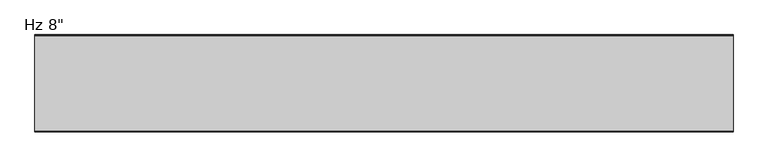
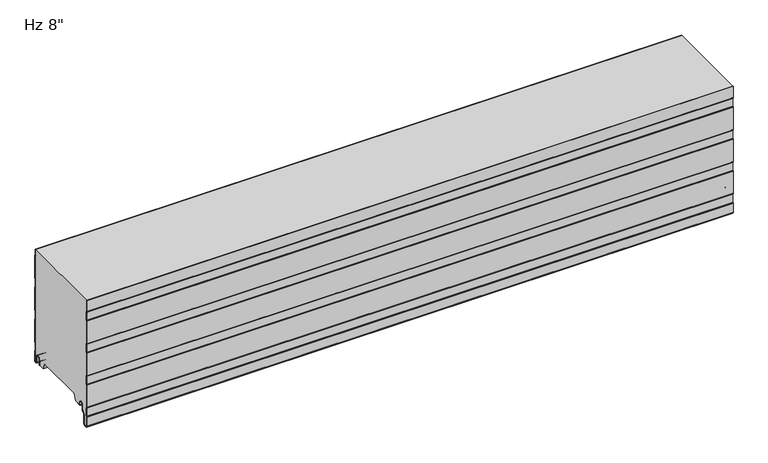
"""IFC4 building model written with IfcOpenShell, lengths in millimetres: plate geometry."""

from ifc_helpers import new_model, si_unit, point, frame, frame_2d, origin, place, context, project, spatial, polyline, circle_curve, trimmed, segment, composite_curve, outline, extrude, source, transform, mapped, element, save
from ifc_brep_helpers import plane_surface, cylinder_surface, revolved_surface, advanced_brep


def plate_716314bc(model_context):
    return source(origin(), model_context, "Body", "SolidModel", [
        extrude(outline(composite_curve([segment(trimmed(circle_curve(frame_2d((-2.3985037, -0.4487243)), 2.3999705), [point((-3.12e-05, -0.3639402))], [point((-2.3985037, -2.8486949))], False, "CARTESIAN"), True, "CONTINUOUS"), segment(polyline([(-2.3985037, -2.8486949), (-3.9516205, -2.8486949)]), True, "CONTINUOUS"), segment(trimmed(circle_curve(frame_2d((-3.9516205, 0.3613604)), 3.2100553), [point((-3.9516205, -2.8486949))], [point((-7.1616758, 0.3613604))], False, "CARTESIAN"), True, "CONTINUOUS"), segment(polyline([(-7.1616758, 0.3613604), (-7.1616758, 13.8905885)]), True, "CONTINUOUS"), segment(trimmed(circle_curve(frame_2d((-9.8816619, 13.8905885)), 2.7199861), [point((-7.1616758, 13.8905885))], [point((-9.8816619, 16.6105746))], True, "CARTESIAN"), True, "CONTINUOUS"), segment(polyline([(-9.8816619, 16.6105746), (-13.5282598, 16.6105746)]), True, "CONTINUOUS"), segment(trimmed(circle_curve(frame_2d((-13.5282598, 13.8905782)), 2.7199964), [point((-13.5282598, 16.6105746))], [point((-16.2482561, 13.8905782))], True, "CARTESIAN"), True, "CONTINUOUS"), segment(polyline([(-16.2482561, 13.8905782), (-16.2482561, 1.189897)]), True, "CONTINUOUS"), segment(trimmed(circle_curve(frame_2d((-17.7722572, 1.189897)), 1.524001), [point((-16.2482561, 1.189897))], [point((-19.2731052, 1.454537))], False, "CARTESIAN"), True, "CONTINUOUS"), segment(polyline([(-19.2731052, 1.454537), (-18.1704393, 7.7080661), (-17.2482561, 7.5454603), (-17.2482561, 13.8905782)]), True, "CONTINUOUS"), segment(trimmed(circle_curve(frame_2d((-13.5282598, 13.8905782)), 3.7199964), [point((-17.2482561, 13.8905782))], [point((-13.5282598, 17.6105746))], False, "CARTESIAN"), True, "CONTINUOUS"), segment(polyline([(-13.5282598, 17.6105746), (-9.8816619, 17.6105746)]), True, "CONTINUOUS"), segment(trimmed(circle_curve(frame_2d((-9.8816619, 13.8905885)), 3.7199861), [point((-9.8816619, 17.6105746))], [point((-6.1616758, 13.8905885))], False, "CARTESIAN"), True, "CONTINUOUS"), segment(polyline([(-6.1616758, 13.8905885), (-6.1616758, 0.3613604)]), True, "CONTINUOUS"), segment(trimmed(circle_curve(frame_2d((-3.9516205, 0.3613604)), 2.2100553), [point((-6.1616758, 0.3613604))], [point((-3.9516205, -1.8486949))], True, "CARTESIAN"), True, "CONTINUOUS"), segment(polyline([(-3.9516205, -1.8486949), (-2.3985037, -1.8486949)]), True, "CONTINUOUS"), segment(trimmed(circle_curve(frame_2d((-2.3985037, -0.4487243)), 1.3999705), [point((-2.3985037, -1.8486949))], [point((-1.0000312, -0.3839769))], True, "CARTESIAN"), True, "CONTINUOUS"), segment(polyline([(-1.0000312, -0.3839769), (-1.0000312, 22.2866086), (-2.2002516, 23.486829), (-2.2002516, 43.1222888), (-1.0000209, 44.3225195), (-1.0000209, 98.4864459), (-2.2002516, 99.6866766), (-2.2002516, 119.3221364), (-1.0000209, 120.5223671), (-1.0000209, 174.6698551), (-2.2002516, 175.8700858), (-2.2002516, 195.5055456), (-1.0000209, 196.7057763), (-1.0000209, 250.8532643), (-2.2002516, 252.0534951), (-2.2002516, 266.4), (-1.2002516, 266.4), (-1.2002516, 252.4677086), (-2.09e-05, 251.2674779), (-2.09e-05, 196.2915628), (-1.2002516, 195.091332), (-1.2002516, 176.2842994), (-2.09e-05, 175.0840687), (-2.09e-05, 120.1081535), (-1.2002516, 118.9079228), (-1.2002516, 100.1008902), (-2.09e-05, 98.9006594), (-2.09e-05, 43.9083059), (-1.2002516, 42.7080752), (-1.2002516, 23.9010426), (-3.12e-05, 22.7008222), (-3.12e-05, -0.3639402)]), True, "CONTINUOUS")], self_intersect=False)), frame((-730.0, 0.0, 0.0), z_axis=(1.0, 0.0, 0.0), x_axis=(0.0, 1.0, 0.0)), (0.0, 0.0, 1.0), 1460.0),
        extrude(outline(composite_curve([segment(trimmed(circle_curve(frame_2d((-174.905791, 0.8654988)), 1.2), [point((-173.705792, 0.8670134))], [point((-176.1042756, 0.8052116))], False, "CARTESIAN"), True, "CONTINUOUS"), segment(polyline([(-176.1042756, 0.8052116), (-176.1042756, 7.3245305)]), True, "CONTINUOUS"), segment(trimmed(circle_curve(frame_2d((-178.4542755, 7.3245305)), 2.3499999), [point((-176.1042756, 7.3245305))], [point((-178.4542755, 9.6745305))], True, "CARTESIAN"), True, "CONTINUOUS"), segment(polyline([(-178.4542755, 9.6745305), (-182.8542753, 9.6745305)]), True, "CONTINUOUS"), segment(trimmed(circle_curve(frame_2d((-182.8542753, 7.3245305)), 2.3499999), [point((-182.8542753, 9.6745305))], [point((-185.2042752, 7.3245305))], True, "CARTESIAN"), True, "CONTINUOUS"), segment(polyline([(-185.2042752, 7.3245305), (-185.2042752, -4.4863817)]), True, "CONTINUOUS"), segment(trimmed(circle_curve(frame_2d((-187.9042752, -4.4863817)), 2.7), [point((-185.2042752, -4.4863817))], [point((-185.9950869, -6.39557))], False, "CARTESIAN"), True, "CONTINUOUS"), segment(polyline([(-185.9950869, -6.39557), (-190.7356458, -11.1361289)]), True, "CONTINUOUS"), segment(trimmed(circle_curve(frame_2d((-189.604275, -12.2674998)), 1.6), [point((-190.7356458, -11.1361289))], [point((-191.204275, -12.2674998))], True, "CARTESIAN"), True, "CONTINUOUS"), segment(polyline([(-191.204275, -12.2674998), (-191.204275, -33.274257)]), True, "CONTINUOUS"), segment(trimmed(circle_curve(frame_2d((-194.904275, -33.274257)), 3.7), [point((-191.204275, -33.274257))], [point((-194.5815079, -36.960152))], False, "CARTESIAN"), True, "CONTINUOUS"), segment(polyline([(-194.5815079, -36.960152), (-199.3284964, -37.3758371)]), True, "CONTINUOUS"), segment(trimmed(circle_curve(frame_2d((-199.6391075, -33.8287598)), 3.5606512), [point((-199.3284964, -37.3758371))], [point((-203.1997587, -33.8287598))], False, "CARTESIAN"), True, "CONTINUOUS"), segment(polyline([(-203.1997587, -33.8287598), (-203.1997587, -12.0182355)]), True, "CONTINUOUS"), segment(trimmed(circle_curve(frame_2d((-201.7998926, -12.0182355)), 1.3998661), [point((-203.1997587, -12.0182355))], [point((-202.7325164, -10.9742825))], False, "CARTESIAN"), True, "CONTINUOUS"), segment(polyline([(-202.7325164, -10.9742825), (-201.9997902, -10.2415563), (-201.9997902, 8.6494291), (-202.7327558, 9.3823947)]), True, "CONTINUOUS"), segment(trimmed(circle_curve(frame_2d((-201.8000446, 10.4264455)), 1.3999972), [point((-202.7327558, 9.3823947))], [point((-203.2000209, 10.4340987))], False, "CARTESIAN"), True, "CONTINUOUS"), segment(polyline([(-203.2000209, 10.4340987), (-203.2000209, 64.1816121)]), True, "CONTINUOUS"), segment(trimmed(circle_curve(frame_2d((-201.8000237, 64.1816121)), 1.3999972), [point((-203.2000209, 64.1816121))], [point((-202.7327348, 65.2256628))], False, "CARTESIAN"), True, "CONTINUOUS"), segment(polyline([(-202.7327348, 65.2256628), (-201.9997902, 65.9586075), (-201.9997902, 84.8492767), (-202.7327558, 85.5822423)]), True, "CONTINUOUS"), segment(trimmed(circle_curve(frame_2d((-201.8000446, 86.6262931)), 1.3999972), [point((-202.7327558, 85.5822423))], [point((-203.2000209, 86.6339463))], False, "CARTESIAN"), True, "CONTINUOUS"), segment(polyline([(-203.2000209, 86.6339463), (-203.2000209, 140.3814597)]), True, "CONTINUOUS"), segment(trimmed(circle_curve(frame_2d((-201.8000237, 140.3814597)), 1.3999972), [point((-203.2000209, 140.3814597))], [point((-202.7327348, 141.4255104))], False, "CARTESIAN"), True, "CONTINUOUS"), segment(polyline([(-202.7327348, 141.4255104), (-201.9997902, 142.1584551), (-201.9997902, 161.0491243), (-202.7327558, 161.7820899)]), True, "CONTINUOUS"), segment(trimmed(circle_curve(frame_2d((-201.8000446, 162.8261407)), 1.3999972), [point((-202.7327558, 161.7820899))], [point((-203.2000209, 162.8337939))], False, "CARTESIAN"), True, "CONTINUOUS"), segment(polyline([(-203.2000209, 162.8337939), (-203.2000209, 216.5813073)]), True, "CONTINUOUS"), segment(trimmed(circle_curve(frame_2d((-201.8000237, 216.5813073)), 1.3999972), [point((-203.2000209, 216.5813073))], [point((-202.7327348, 217.625358))], False, "CARTESIAN"), True, "CONTINUOUS"), segment(polyline([(-202.7327348, 217.625358), (-201.9997902, 218.3583027), (-201.9997902, 237.2489719), (-202.7327558, 237.9819375)]), True, "CONTINUOUS"), segment(trimmed(circle_curve(frame_2d((-201.8000446, 239.0259883)), 1.3999972), [point((-202.7327558, 237.9819375))], [point((-203.2000209, 239.0336415))], False, "CARTESIAN"), True, "CONTINUOUS"), segment(polyline([(-203.2000209, 239.0336415), (-203.2000209, 266.4), (-202.2000209, 266.4), (-202.2000209, 238.8638905), (-200.9997902, 237.6636597), (-200.9997902, 217.9442472), (-202.2000209, 216.7440165), (-202.2000209, 162.6638848), (-200.9997902, 161.4636541), (-200.9997902, 141.7442416), (-202.2000209, 140.5440108), (-202.2000209, 86.4638791), (-200.9997902, 85.2636484), (-200.9997902, 65.5442359), (-202.2000209, 64.3440052), (-202.2000209, 10.2638734), (-200.9997902, 9.0636427), (-200.9997902, -10.6557698), (-202.1997587, -11.8557384), (-202.1997587, -33.8287598)]), True, "CONTINUOUS"), segment(trimmed(circle_curve(frame_2d((-199.6391075, -33.8287598)), 2.5606512), [point((-202.1997587, -33.8287598))], [point((-199.4157308, -36.3796493))], True, "CARTESIAN"), True, "CONTINUOUS"), segment(polyline([(-199.4157308, -36.3796493), (-194.6687422, -35.9639641)]), True, "CONTINUOUS"), segment(trimmed(circle_curve(frame_2d((-194.904275, -33.274257)), 2.7), [point((-194.6687422, -35.9639641))], [point((-192.204275, -33.274257))], True, "CARTESIAN"), True, "CONTINUOUS"), segment(polyline([(-192.204275, -33.274257), (-192.204275, -12.2674998)]), True, "CONTINUOUS"), segment(trimmed(circle_curve(frame_2d((-189.604275, -12.2674998)), 2.6), [point((-192.204275, -12.2674998))], [point((-191.4427526, -10.4290221))], False, "CARTESIAN"), True, "CONTINUOUS"), segment(polyline([(-191.4427526, -10.4290221), (-186.7021937, -5.6884632)]), True, "CONTINUOUS"), segment(trimmed(circle_curve(frame_2d((-187.9042752, -4.4863817)), 1.7), [point((-186.7021937, -5.6884632))], [point((-186.2042752, -4.4863817))], True, "CARTESIAN"), True, "CONTINUOUS"), segment(polyline([(-186.2042752, -4.4863817), (-186.2042752, 7.3245305)]), True, "CONTINUOUS"), segment(trimmed(circle_curve(frame_2d((-182.8542753, 7.3245305)), 3.3499999), [point((-186.2042752, 7.3245305))], [point((-182.8542753, 10.6745305))], False, "CARTESIAN"), True, "CONTINUOUS"), segment(polyline([(-182.8542753, 10.6745305), (-178.4542755, 10.6745305)]), True, "CONTINUOUS"), segment(trimmed(circle_curve(frame_2d((-178.4542755, 7.3245305)), 3.3499999), [point((-178.4542755, 10.6745305))], [point((-175.1042756, 7.3245305))], False, "CARTESIAN"), True, "CONTINUOUS"), segment(polyline([(-175.1042756, 7.3245305), (-175.1042756, 4.6254142), (-173.705792, 4.6254142), (-173.705792, 0.8670134)]), True, "CONTINUOUS")], self_intersect=False)), frame((-730.0, 0.0, 0.0), z_axis=(1.0, 0.0, 0.0), x_axis=(0.0, 1.0, 0.0)), (0.0, 0.0, 1.0), 1460.0),
        advanced_brep(
        [(-730.0, -175.1042756, 7.3245305), (-730.0, -178.4542755, 10.6745305), (-730.0, -182.8542753, 10.6745305), (-730.0, -186.2042752, 7.3245305), (-730.0, -186.2042752, -4.4863817), (-730.0, -186.7021937, -5.6884632), (-730.0, -191.4427526, -10.4290221), (-730.0, -192.204275, -12.2674998), (-730.0, -192.204275, -33.274257), (-730.0, -194.6687422, -35.9639641), (-730.0, -199.4157308, -36.3796493), (-730.0, -202.1997587, -33.8287598), (-730.0, -202.1997587, -11.8557384), (-730.0, -200.9997902, -10.6557698), (-730.0, -200.9997902, 9.0636427), (-730.0, -202.2000209, 10.2638734), (-730.0, -202.2000209, 64.3440052), (-730.0, -200.9997902, 65.5442359), (-730.0, -200.9997902, 85.2636484), (-730.0, -202.2000209, 86.4638791), (-730.0, -202.2000209, 140.5440108), (-730.0, -200.9997902, 141.7442416), (-730.0, -200.9997902, 161.4636541), (-730.0, -202.2000209, 162.6638848), (-730.0, -202.2000209, 216.7440165), (-730.0, -200.9997902, 217.9442472), (-730.0, -200.9997902, 237.6636597), (-730.0, -202.2000209, 238.8638905), (-730.0, -202.2000209, 266.4), (-730.0, -2.2002516, 266.4), (-730.0, -2.2002516, 252.0534951), (-730.0, -1.0000209, 250.8532643), (-730.0, -1.0000209, 196.7057763), (-730.0, -2.2002516, 195.5055456), (-730.0, -2.2002516, 175.8700858), (-730.0, -1.0000209, 174.6698551), (-730.0, -1.0000209, 120.5223671), (-730.0, -2.2002516, 119.3221364), (-730.0, -2.2002516, 99.6866766), (-730.0, -1.0000209, 98.4864459), (-730.0, -1.0000209, 44.3225195), (-730.0, -2.2002516, 43.1222888), (-730.0, -2.2002516, 23.486829), (-730.0, -1.0000312, 22.2866086), (-730.0, -1.0000312, -0.3839769), (-730.0, -2.3985037, -1.8486949), (-730.0, -3.9516205, -1.8486949), (-730.0, -6.1616758, 0.3613604), (-730.0, -6.1616758, 13.8905885), (-730.0, -9.8816619, 17.6105746), (-730.0, -13.5282598, 17.6105746), (-730.0, -17.2482561, 13.8905782), (-730.0, -17.2482561, 7.5454603), (-730.0, -18.1704393, 7.7080661), (-730.0, -19.2731052, 1.454537), (-730.0, -18.724478, 0.0), (-730.0, -33.5050787, 0.0), (-730.0, -39.1301227, 14.9979533), (-730.0, -153.3686274, 14.9979533), (-730.0, -158.9925929, 0.0), (-730.0, -174.07458, 0.0), (-730.0, -173.705792, 0.8670134), (-730.0, -173.705792, 4.6254142), (-730.0, -175.1042756, 4.6254142), (730.0, -175.1042756, 7.3245305), (730.0, -175.1042756, 4.6254142), (730.0, -173.705792, 4.6254142), (730.0, -173.705792, 0.8670134), (730.0, -174.07458, 0.0), (730.0, -158.9925929, 0.0), (730.0, -153.3683653, 14.9979533), (730.0, -39.1301227, 14.9979533), (730.0, -33.5050787, 0.0), (730.0, -18.724478, 0.0), (730.0, -19.2731052, 1.454537), (730.0, -18.1704393, 7.7080661), (730.0, -17.2482561, 7.5454603), (730.0, -17.2482561, 13.8905782), (730.0, -13.5282598, 17.6105746), (730.0, -9.8816619, 17.6105746), (730.0, -6.1616758, 13.8905885), (730.0, -6.1616758, 0.3613604), (730.0, -3.9516205, -1.8486949), (730.0, -2.3985037, -1.8486949), (730.0, -1.0000312, -0.3839769), (730.0, -1.0000312, 22.2866086), (730.0, -2.2002516, 23.486829), (730.0, -2.2002516, 43.1222888), (730.0, -1.0000209, 44.3225195), (730.0, -1.0000209, 98.4864459), (730.0, -2.2002516, 99.6866766), (730.0, -2.2002516, 119.3221364), (730.0, -1.0000209, 120.5223671), (730.0, -1.0000209, 174.6698551), (730.0, -2.2002516, 175.8700858), (730.0, -2.2002516, 195.5055456), (730.0, -1.0000209, 196.7057763), (730.0, -1.0000209, 250.8532643), (730.0, -2.2002516, 252.0534951), (730.0, -2.2002516, 266.4), (730.0, -202.2000209, 266.4), (730.0, -202.2000209, 238.8638905), (730.0, -200.9997902, 237.6636597), (730.0, -200.9997902, 217.9442472), (730.0, -202.2000209, 216.7440165), (730.0, -202.2000209, 162.6638848), (730.0, -200.9997902, 161.4636541), (730.0, -200.9997902, 141.7442416), (730.0, -202.2000209, 140.5440108), (730.0, -202.2000209, 86.4638791), (730.0, -200.9997902, 85.2636484), (730.0, -200.9997902, 65.5442359), (730.0, -202.2000209, 64.3440052), (730.0, -202.2000209, 10.2638734), (730.0, -200.9997902, 9.0636427), (730.0, -200.9997902, -10.6557698), (730.0, -202.1997587, -11.8557384), (730.0, -202.1997587, -33.8287598), (730.0, -199.4157308, -36.3796493), (730.0, -194.6687422, -35.9639641), (730.0, -192.204275, -33.274257), (730.0, -192.204275, -12.2674998), (730.0, -191.4427526, -10.4290221), (730.0, -186.7021937, -5.6884632), (730.0, -186.2042752, -4.4863817), (730.0, -186.2042752, 7.3245305), (730.0, -182.8542753, 10.6745305), (730.0, -178.4542755, 10.6745305)],
        [
            (0, 1, circle_curve(frame((-730.0, -178.4542755, 7.3245305), z_axis=(1.0, 0.0, 0.0), x_axis=(0.0, 0.0, -1.0)), 3.3499999)),
            (1, 2),
            (2, 3, circle_curve(frame((-730.0, -182.8542753, 7.3245305), z_axis=(1.0, 0.0, 0.0), x_axis=(0.0, 0.0, -1.0)), 3.3499999)),
            (3, 4),
            (4, 5, circle_curve(frame((-730.0, -187.9042752, -4.4863817), z_axis=(-1.0, 0.0, 0.0), x_axis=(0.0, 0.0, -1.0)), 1.7)),
            (5, 6),
            (6, 7, circle_curve(frame((-730.0, -189.604275, -12.2674998), z_axis=(1.0, 0.0, 0.0), x_axis=(0.0, 0.0, -1.0)), 2.6)),
            (7, 8),
            (8, 9, circle_curve(frame((-730.0, -194.904275, -33.274257), z_axis=(-1.0, 0.0, 0.0), x_axis=(0.0, 0.0, -1.0)), 2.7)),
            (9, 10),
            (10, 11, circle_curve(frame((-730.0, -199.6391075, -33.8287598), z_axis=(-1.0, 0.0, 0.0), x_axis=(0.0, 0.0, -1.0)), 2.5606512)),
            (11, 12),
            (12, 13),
            (13, 14),
            (14, 15),
            (15, 16),
            (16, 17),
            (17, 18),
            (18, 19),
            (19, 20),
            (20, 21),
            (21, 22),
            (22, 23),
            (23, 24),
            (24, 25),
            (25, 26),
            (26, 27),
            (27, 28),
            (28, 29),
            (29, 30),
            (30, 31),
            (31, 32),
            (32, 33),
            (33, 34),
            (34, 35),
            (35, 36),
            (36, 37),
            (37, 38),
            (38, 39),
            (39, 40),
            (40, 41),
            (41, 42),
            (42, 43),
            (43, 44),
            (44, 45, circle_curve(frame((-730.0, -2.3985037, -0.4487243), z_axis=(-1.0, 0.0, 0.0), x_axis=(0.0, 0.0, -1.0)), 1.3999705)),
            (45, 46),
            (46, 47, circle_curve(frame((-730.0, -3.9516205, 0.3613604), z_axis=(-1.0, 0.0, 0.0), x_axis=(0.0, 0.0, -1.0)), 2.2100553)),
            (47, 48),
            (48, 49, circle_curve(frame((-730.0, -9.8816619, 13.8905885), z_axis=(1.0, 0.0, 0.0), x_axis=(0.0, 0.0, -1.0)), 3.7199861)),
            (49, 50),
            (50, 51, circle_curve(frame((-730.0, -13.5282598, 13.8905782), z_axis=(1.0, 0.0, 0.0), x_axis=(0.0, 0.0, -1.0)), 3.7199964)),
            (51, 52),
            (52, 53),
            (53, 54),
            (54, 55, circle_curve(frame((-730.0, -17.7722572, 1.189897), z_axis=(1.0, 0.0, 0.0), x_axis=(0.0, 0.0, -1.0)), 1.524001)),
            (55, 56),
            (56, 57),
            (57, 58),
            (58, 59),
            (59, 60),
            (60, 61, circle_curve(frame((-730.0, -174.905791, 0.8654988), z_axis=(1.0, 0.0, 0.0), x_axis=(0.0, 0.0, -1.0)), 1.2)),
            (61, 62),
            (62, 63),
            (63, 0),
            (64, 65),
            (65, 66),
            (66, 67),
            (67, 68, circle_curve(frame((730.0, -174.905791, 0.8654988), z_axis=(-1.0, 0.0, 0.0), x_axis=(0.0, 0.0, -1.0)), 1.2)),
            (68, 69),
            (69, 70),
            (70, 71),
            (71, 72),
            (72, 73),
            (73, 74, circle_curve(frame((730.0, -17.7722572, 1.189897), z_axis=(-1.0, 0.0, 0.0), x_axis=(0.0, 0.0, -1.0)), 1.524001)),
            (74, 75),
            (75, 76),
            (76, 77),
            (77, 78, circle_curve(frame((730.0, -13.5282598, 13.8905782), z_axis=(-1.0, 0.0, 0.0), x_axis=(0.0, 0.0, -1.0)), 3.7199964)),
            (78, 79),
            (79, 80, circle_curve(frame((730.0, -9.8816619, 13.8905885), z_axis=(-1.0, 0.0, 0.0), x_axis=(0.0, 0.0, -1.0)), 3.7199861)),
            (80, 81),
            (81, 82, circle_curve(frame((730.0, -3.9516205, 0.3613604), z_axis=(1.0, 0.0, 0.0), x_axis=(0.0, 0.0, -1.0)), 2.2100553)),
            (82, 83),
            (83, 84, circle_curve(frame((730.0, -2.3985037, -0.4487243), z_axis=(1.0, 0.0, 0.0), x_axis=(0.0, 0.0, -1.0)), 1.3999705)),
            (84, 85),
            (85, 86),
            (86, 87),
            (87, 88),
            (88, 89),
            (89, 90),
            (90, 91),
            (91, 92),
            (92, 93),
            (93, 94),
            (94, 95),
            (95, 96),
            (96, 97),
            (97, 98),
            (98, 99),
            (99, 100),
            (100, 101),
            (101, 102),
            (102, 103),
            (103, 104),
            (104, 105),
            (105, 106),
            (106, 107),
            (107, 108),
            (108, 109),
            (109, 110),
            (110, 111),
            (111, 112),
            (112, 113),
            (113, 114),
            (114, 115),
            (115, 116),
            (116, 117),
            (117, 118, circle_curve(frame((730.0, -199.6391075, -33.8287598), z_axis=(1.0, 0.0, 0.0), x_axis=(0.0, 0.0, -1.0)), 2.5606512)),
            (118, 119),
            (119, 120, circle_curve(frame((730.0, -194.904275, -33.274257), z_axis=(1.0, 0.0, 0.0), x_axis=(0.0, 0.0, -1.0)), 2.7)),
            (120, 121),
            (121, 122, circle_curve(frame((730.0, -189.604275, -12.2674998), z_axis=(-1.0, 0.0, 0.0), x_axis=(0.0, 0.0, -1.0)), 2.6)),
            (122, 123),
            (123, 124, circle_curve(frame((730.0, -187.9042752, -4.4863817), z_axis=(1.0, 0.0, 0.0), x_axis=(0.0, 0.0, -1.0)), 1.7)),
            (124, 125),
            (125, 126, circle_curve(frame((730.0, -182.8542753, 7.3245305), z_axis=(-1.0, 0.0, 0.0), x_axis=(0.0, 0.0, -1.0)), 3.3499999)),
            (126, 127),
            (127, 64, circle_curve(frame((730.0, -178.4542755, 7.3245305), z_axis=(-1.0, 0.0, 0.0), x_axis=(0.0, 0.0, -1.0)), 3.3499999)),
            (48, 80),
            (79, 49),
            (47, 81),
            (46, 82),
            (45, 83),
            (44, 84),
            (43, 85),
            (42, 86),
            (41, 87),
            (40, 88),
            (39, 89),
            (38, 90),
            (37, 91),
            (36, 92),
            (35, 93),
            (34, 94),
            (33, 95),
            (32, 96),
            (31, 97),
            (30, 98),
            (29, 99),
            (56, 72),
            (71, 57),
            (55, 73),
            (54, 74),
            (53, 75),
            (52, 76),
            (51, 77),
            (50, 78),
            (70, 58),
            (0, 64),
            (127, 1),
            (63, 65),
            (62, 66),
            (61, 67),
            (60, 68),
            (10, 118),
            (117, 11),
            (9, 119),
            (8, 120),
            (7, 121),
            (6, 122),
            (5, 123),
            (4, 124),
            (3, 125),
            (2, 126),
            (59, 69),
            (116, 12),
            (13, 115),
            (114, 14),
            (113, 15),
            (112, 16),
            (17, 111),
            (110, 18),
            (109, 19),
            (108, 20),
            (21, 107),
            (106, 22),
            (105, 23),
            (104, 24),
            (25, 103),
            (102, 26),
            (101, 27),
            (100, 28),
        ],
        [
            plane_surface(frame((-730.0, -202.2000209, 532.8637656), z_axis=(-1.0, 0.0, 0.0), x_axis=(0.0, -1.0, 0.0))),
            plane_surface(frame((730.0, -202.2000209, 532.8637656), z_axis=(1.0, 0.0, 0.0), x_axis=(0.0, -1.0, 0.0))),
            revolved_surface(polyline([(730.0, -9.8816619, 10.1706024), (-730.0, -9.8816619, 10.1706024)]), (-730.0, -9.8816619, 13.8905885), (1.0, 0.0, 0.0)),
            plane_surface(frame((-730.0, -6.1616758, 13.8905885), z_axis=(0.0, -1.0, 0.0), x_axis=(1.0, 0.0, 0.0))),
            cylinder_surface(frame((-730.0, -3.9516205, 0.3613604), z_axis=(-1.0, 0.0, 0.0), x_axis=(0.0, 0.0, -1.0)), 2.2100553),
            plane_surface(frame((-730.0, -3.9516205, -1.8486949), z_axis=(0.0, 0.0, -1.0), x_axis=(1.0, 0.0, 0.0))),
            cylinder_surface(frame((-730.0, -2.3985037, -0.4487243), z_axis=(-1.0, 0.0, 0.0), x_axis=(0.0, 0.0, -1.0)), 1.3999705),
            plane_surface(frame((-730.0, -1.0000312, -0.3839769), z_axis=(0.0, 1.0, 0.0), x_axis=(1.0, 0.0, 0.0))),
            plane_surface(frame((-730.0, -1.0000312, 22.2866086), z_axis=(0.0, 0.7071067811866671, 0.7071067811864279), x_axis=(1.0, 0.0, 0.0))),
            plane_surface(frame((-730.0, -2.2002516, 33.3045589), z_axis=(0.0, 1.0, 0.0), x_axis=(1.0, 0.0, 0.0))),
            plane_surface(frame((-730.0, -2.2002516, 43.1222888), z_axis=(0.0, 0.7071067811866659, -0.7071067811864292), x_axis=(1.0, 0.0, 0.0))),
            plane_surface(frame((-730.0, -1.0000209, 44.3225195), z_axis=(0.0, 1.0, 0.0), x_axis=(1.0, 0.0, 0.0))),
            plane_surface(frame((-730.0, -1.0000209, 98.4864459), z_axis=(0.0, 0.7071067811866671, 0.7071067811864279), x_axis=(1.0, 0.0, 0.0))),
            plane_surface(frame((-730.0, -2.2002516, 109.5044065), z_axis=(0.0, 1.0, 0.0), x_axis=(1.0, 0.0, 0.0))),
            plane_surface(frame((-730.0, -2.2002516, 119.3221364), z_axis=(0.0, 0.7071067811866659, -0.7071067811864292), x_axis=(1.0, 0.0, 0.0))),
            plane_surface(frame((-730.0, -1.0000209, 120.5223671), z_axis=(0.0, 1.0, 0.0), x_axis=(1.0, 0.0, 0.0))),
            plane_surface(frame((-730.0, -1.0000209, 174.6698551), z_axis=(0.0, 0.7071067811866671, 0.7071067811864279), x_axis=(1.0, 0.0, 0.0))),
            plane_surface(frame((-730.0, -2.2002516, 185.6878157), z_axis=(0.0, 1.0, 0.0), x_axis=(1.0, 0.0, 0.0))),
            plane_surface(frame((-730.0, -2.2002516, 195.5055456), z_axis=(0.0, 0.7071067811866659, -0.7071067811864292), x_axis=(1.0, 0.0, 0.0))),
            plane_surface(frame((-730.0, -1.0000209, 196.7057763), z_axis=(0.0, 1.0, 0.0), x_axis=(1.0, 0.0, 0.0))),
            plane_surface(frame((-730.0, -1.0000209, 250.8532643), z_axis=(0.0, 0.7071067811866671, 0.7071067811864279), x_axis=(1.0, 0.0, 0.0))),
            plane_surface(frame((-730.0, -2.2002516, 261.8712249), z_axis=(0.0, 1.0, 0.0), x_axis=(1.0, 0.0, 0.0))),
            plane_surface(frame((-730.0, -39.1301227, 14.9979533), z_axis=(0.0, -0.9363125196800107, -0.35116785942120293), x_axis=(1.0, 0.0, 0.0))),
            plane_surface(frame((-730.0, -33.5050787, 0.0), z_axis=(0.0, 0.0, -1.0), x_axis=(1.0, 0.0, 0.0))),
            revolved_surface(polyline([(730.0, -17.7722572, -0.33410399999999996), (-730.0, -17.7722572, -0.33410399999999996)]), (-730.0, -17.7722572, 1.189897), (1.0, 0.0, 0.0)),
            plane_surface(frame((-730.0, -19.2731052, 1.454537), z_axis=(0.0, 0.9848077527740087, -0.1736481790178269), x_axis=(1.0, 0.0, 0.0))),
            plane_surface(frame((-730.0, -18.1704393, 7.7080661), z_axis=(0.0, -0.17364817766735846, -0.9848077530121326), x_axis=(1.0, 0.0, 0.0))),
            plane_surface(frame((-730.0, -17.2482561, 7.5454603), z_axis=(0.0, 1.0, 0.0), x_axis=(1.0, 0.0, 0.0))),
            revolved_surface(polyline([(730.0, -13.5282598, 10.1705818), (-730.0, -13.5282598, 10.1705818)]), (-730.0, -13.5282598, 13.8905782), (1.0, 0.0, 0.0)),
            plane_surface(frame((-730.0, -13.5282598, 17.6105746), z_axis=(0.0, 0.0, -1.0), x_axis=(1.0, 0.0, 0.0))),
            plane_surface(frame((730.0, -39.1301227, 14.9979533), z_axis=(0.0, 0.0, -1.0), x_axis=(-1.0, 0.0, 0.0))),
            revolved_surface(polyline([(730.0, -178.4542755, 3.9745306), (-730.0, -178.4542755, 3.9745306)]), (-730.0, -178.4542755, 7.3245305), (1.0, 0.0, 0.0)),
            plane_surface(frame((-730.0, -175.1042756, 7.3245305), z_axis=(0.0, -1.0, 0.0), x_axis=(1.0, 0.0, 0.0))),
            plane_surface(frame((-730.0, -175.1042756, 4.6254142), z_axis=(0.0, 0.0, -1.0), x_axis=(1.0, 0.0, 0.0))),
            plane_surface(frame((-730.0, -173.705792, 4.6254142), z_axis=(0.0, -1.0, 0.0), x_axis=(1.0, 0.0, 0.0))),
            revolved_surface(polyline([(730.0, -174.905791, -0.33450119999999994), (-730.0, -174.905791, -0.33450119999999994)]), (-730.0, -174.905791, 0.8654988), (1.0, 0.0, 0.0)),
            cylinder_surface(frame((-730.0, -199.6391075, -33.8287598), z_axis=(-1.0, 0.0, 0.0), x_axis=(0.0, 0.0, -1.0)), 2.5606512),
            plane_surface(frame((-730.0, -199.4157308, -36.3796493), z_axis=(0.0, 0.08723436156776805, -0.9961878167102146), x_axis=(1.0, 0.0, 0.0))),
            cylinder_surface(frame((-730.0, -194.904275, -33.274257), z_axis=(-1.0, 0.0, 0.0), x_axis=(0.0, 0.0, -1.0)), 2.7),
            plane_surface(frame((-730.0, -192.204275, -33.274257), z_axis=(0.0, 1.0, 0.0), x_axis=(1.0, 0.0, 0.0))),
            revolved_surface(polyline([(730.0, -189.604275, -14.8674998), (-730.0, -189.604275, -14.8674998)]), (-730.0, -189.604275, -12.2674998), (1.0, 0.0, 0.0)),
            plane_surface(frame((-730.0, -191.4427526, -10.4290221), z_axis=(0.0, 0.7071067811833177, -0.7071067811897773), x_axis=(1.0, 0.0, 0.0))),
            cylinder_surface(frame((-730.0, -187.9042752, -4.4863817), z_axis=(-1.0, 0.0, 0.0), x_axis=(0.0, 0.0, -1.0)), 1.7),
            plane_surface(frame((-730.0, -186.2042752, -4.4863817), z_axis=(0.0, 1.0, 0.0), x_axis=(1.0, 0.0, 0.0))),
            revolved_surface(polyline([(730.0, -182.8542753, 3.9745306), (-730.0, -182.8542753, 3.9745306)]), (-730.0, -182.8542753, 7.3245305), (1.0, 0.0, 0.0)),
            plane_surface(frame((-730.0, -182.8542753, 10.6745305), z_axis=(0.0, 0.0, -1.0), x_axis=(1.0, 0.0, 0.0))),
            plane_surface(frame((-730.0, -174.07458, 0.0), z_axis=(0.0, 0.0, -1.0), x_axis=(1.0, 0.0, 0.0))),
            plane_surface(frame((-730.0, -158.9925929, 0.0), z_axis=(0.0, 0.9363292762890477, -0.3511231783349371), x_axis=(1.0, 0.0, 0.0))),
            plane_surface(frame((-730.0, -202.1997587, -11.8557384), z_axis=(0.0, -1.0, 0.0), x_axis=(1.0, 0.0, 0.0))),
            plane_surface(frame((-730.0, -200.9997902, 9.0636427), z_axis=(0.0, -1.0, 0.0), x_axis=(1.0, 0.0, 0.0))),
            plane_surface(frame((-730.0, -200.9997902, -10.6557698), z_axis=(0.0, -0.7071067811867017, 0.7071067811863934), x_axis=(1.0, 0.0, 0.0))),
            plane_surface(frame((-730.0, -202.2000209, 10.2638734), z_axis=(0.0, -0.7071067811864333, -0.7071067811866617), x_axis=(1.0, 0.0, 0.0))),
            plane_surface(frame((-730.0, -202.2000209, 64.3440052), z_axis=(0.0, -1.0, 0.0), x_axis=(1.0, 0.0, 0.0))),
            plane_surface(frame((-730.0, -200.9997902, 85.2636484), z_axis=(0.0, -1.0, 0.0), x_axis=(1.0, 0.0, 0.0))),
            plane_surface(frame((-730.0, -200.9997902, 65.5442359), z_axis=(0.0, -0.7071067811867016, 0.7071067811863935), x_axis=(1.0, 0.0, 0.0))),
            plane_surface(frame((-730.0, -202.2000209, 86.4638791), z_axis=(0.0, -0.7071067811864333, -0.7071067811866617), x_axis=(1.0, 0.0, 0.0))),
            plane_surface(frame((-730.0, -202.2000209, 140.5440108), z_axis=(0.0, -1.0, 0.0), x_axis=(1.0, 0.0, 0.0))),
            plane_surface(frame((-730.0, -200.9997902, 161.4636541), z_axis=(0.0, -1.0, 0.0), x_axis=(1.0, 0.0, 0.0))),
            plane_surface(frame((-730.0, -200.9997902, 141.7442416), z_axis=(0.0, -0.7071067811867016, 0.7071067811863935), x_axis=(1.0, 0.0, 0.0))),
            plane_surface(frame((-730.0, -202.2000209, 162.6638848), z_axis=(0.0, -0.7071067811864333, -0.7071067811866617), x_axis=(1.0, 0.0, 0.0))),
            plane_surface(frame((-730.0, -202.2000209, 216.7440165), z_axis=(0.0, -1.0, 0.0), x_axis=(1.0, 0.0, 0.0))),
            plane_surface(frame((-730.0, -200.9997902, 237.6636597), z_axis=(0.0, -1.0, 0.0), x_axis=(1.0, 0.0, 0.0))),
            plane_surface(frame((-730.0, -200.9997902, 217.9442472), z_axis=(0.0, -0.7071067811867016, 0.7071067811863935), x_axis=(1.0, 0.0, 0.0))),
            plane_surface(frame((-730.0, -202.2000209, 238.8638905), z_axis=(0.0, -0.7071067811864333, -0.7071067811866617), x_axis=(1.0, 0.0, 0.0))),
            plane_surface(frame((-730.0, -202.2000209, 292.9440222), z_axis=(0.0, -1.0, 0.0), x_axis=(1.0, 0.0, 0.0))),
            plane_surface(frame((730.0, 11.9999791, 266.4), z_axis=(0.0, 0.0, 1.0), x_axis=(-1.0, 0.0, 0.0))),
        ],
        [
            (0, [[1, 2, 3, 4, 5, 6, 7, 8, 9, 10, 11, 12, 13, 14, 15, 16, 17, 18, 19, 20, 21, 22, 23, 24, 25, 26, 27, 28, 29, 30, 31, 32, 33, 34, 35, 36, 37, 38, 39, 40, 41, 42, 43, 44, 45, 46, 47, 48, 49, 50, 51, 52, 53, 54, 55, 56, 57, 58, 59, 60, 61, 62, 63, 64]]),
            (1, [[65, 66, 67, 68, 69, 70, 71, 72, 73, 74, 75, 76, 77, 78, 79, 80, 81, 82, 83, 84, 85, 86, 87, 88, 89, 90, 91, 92, 93, 94, 95, 96, 97, 98, 99, 100, 101, 102, 103, 104, 105, 106, 107, 108, 109, 110, 111, 112, 113, 114, 115, 116, 117, 118, 119, 120, 121, 122, 123, 124, 125, 126, 127, 128]]),
            (2, [[129, -80, 130, -49]]),
            (3, [[131, -81, -129, -48]]),
            (4, [[132, -82, -131, -47]]),
            (5, [[133, -83, -132, -46]]),
            (6, [[134, -84, -133, -45]]),
            (7, [[135, -85, -134, -44]]),
            (8, [[136, -86, -135, -43]]),
            (9, [[137, -87, -136, -42]]),
            (10, [[138, -88, -137, -41]]),
            (11, [[139, -89, -138, -40]]),
            (12, [[140, -90, -139, -39]]),
            (13, [[141, -91, -140, -38]]),
            (14, [[142, -92, -141, -37]]),
            (15, [[143, -93, -142, -36]]),
            (16, [[144, -94, -143, -35]]),
            (17, [[145, -95, -144, -34]]),
            (18, [[146, -96, -145, -33]]),
            (19, [[147, -97, -146, -32]]),
            (20, [[148, -98, -147, -31]]),
            (21, [[-30, 149, -99, -148]]),
            (22, [[150, -72, 151, -57]]),
            (23, [[152, -73, -150, -56]]),
            (24, [[153, -74, -152, -55]]),
            (25, [[154, -75, -153, -54]]),
            (26, [[155, -76, -154, -53]]),
            (27, [[156, -77, -155, -52]]),
            (28, [[157, -78, -156, -51]]),
            (29, [[-130, -79, -157, -50]]),
            (30, [[158, -58, -151, -71]]),
            (31, [[159, -128, 160, -1]]),
            (32, [[161, -65, -159, -64]]),
            (33, [[162, -66, -161, -63]]),
            (34, [[163, -67, -162, -62]]),
            (35, [[164, -68, -163, -61]]),
            (36, [[165, -118, 166, -11]]),
            (37, [[167, -119, -165, -10]]),
            (38, [[168, -120, -167, -9]]),
            (39, [[169, -121, -168, -8]]),
            (40, [[170, -122, -169, -7]]),
            (41, [[171, -123, -170, -6]]),
            (42, [[172, -124, -171, -5]]),
            (43, [[173, -125, -172, -4]]),
            (44, [[174, -126, -173, -3]]),
            (45, [[-160, -127, -174, -2]]),
            (46, [[175, -69, -164, -60]]),
            (47, [[-158, -70, -175, -59]]),
            (48, [[-166, -117, 176, -12]]),
            (49, [[177, -115, 178, -14]]),
            (50, [[-176, -116, -177, -13]]),
            (51, [[-178, -114, 179, -15]]),
            (52, [[-179, -113, 180, -16]]),
            (53, [[181, -111, 182, -18]]),
            (54, [[-180, -112, -181, -17]]),
            (55, [[-182, -110, 183, -19]]),
            (56, [[-183, -109, 184, -20]]),
            (57, [[185, -107, 186, -22]]),
            (58, [[-184, -108, -185, -21]]),
            (59, [[-186, -106, 187, -23]]),
            (60, [[-187, -105, 188, -24]]),
            (61, [[189, -103, 190, -26]]),
            (62, [[-188, -104, -189, -25]]),
            (63, [[-190, -102, 191, -27]]),
            (64, [[-101, 192, -28, -191]]),
            (65, [[-192, -100, -149, -29]]),
        ],
    ),
    ])


if __name__ == "__main__":
    model = new_model("IFC4")
    model_context = context("Model", 3, world=origin())
    ifc_project = project(units=[si_unit("LENGTHUNIT", "METRE", prefix="MILLI")], contexts=[model_context])
    site = spatial("IfcSite", under=ifc_project)
    building = spatial("IfcBuilding", under=site)
    placement = place(None, origin())
    plate_shape = plate_716314bc(model_context)
    element("IfcPlate", 1, ObjectType="KIP-42-KRHF-R19-CP-Hz-SL_SL : Hz 8\"", at=placement, inside=building, context=model_context, shape_type="MappedRepresentation", body=[
        mapped(plate_shape, transform((0.0, 0.0, 0.0), x_axis=(1.0, 0.0, 0.0), y_axis=(0.0, 1.0, 0.0), z_axis=(0.0, 0.0, 1.0))),
    ])
    save(model, "model.ifc")
